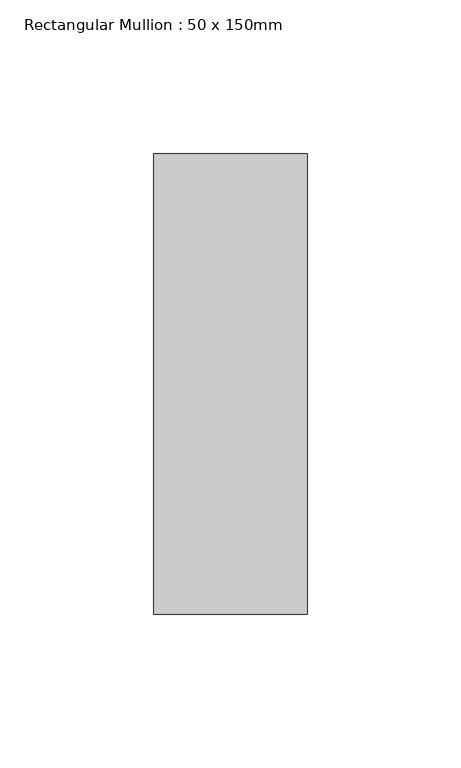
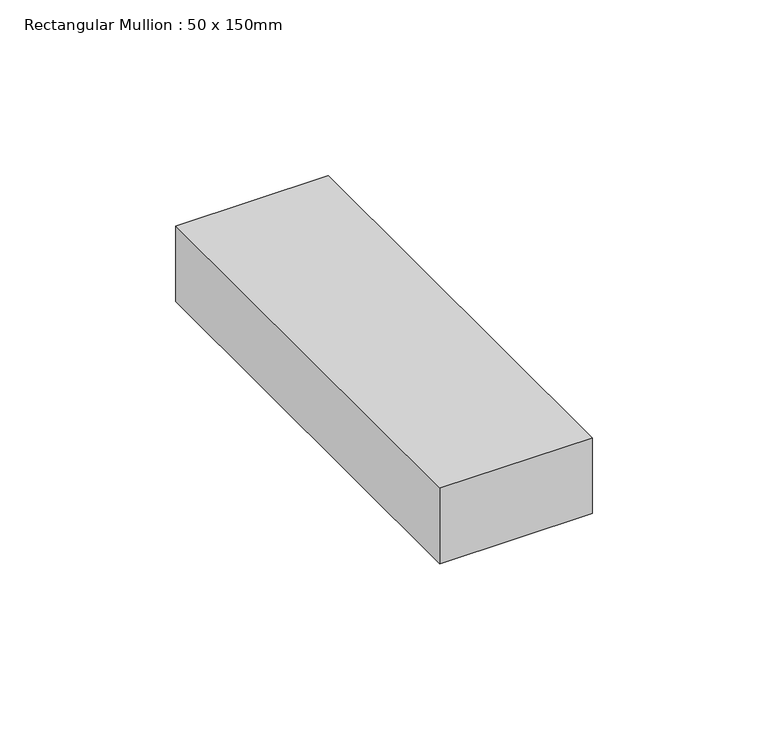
"""IFC4 building model written with IfcOpenShell, lengths in millimetres: member geometry, Rectangular Mullion : 50 x 150mm."""

from ifc_helpers import new_model, si_unit, frame, origin, place, context, project, spatial, polyline, outline, extrude, source, transform, mapped, element, save


def rectangular_mullion_50_x_150mm_18f4aede(model_context):
    return source(origin(), model_context, "Body", "SweptSolid", [
        extrude(outline(polyline([(25.0, 75.0), (25.0, -75.0), (-25.0, -75.0), (-25.0, 75.0), (25.0, 75.0)])), frame((0.0, 0.0, -26.25), z_axis=(0.0, 0.0, 1.0), x_axis=(1.0, 0.0, 0.0)), (0.0, 0.0, 1.0), 26.25),
    ])


if __name__ == "__main__":
    model = new_model("IFC4")
    model_context = context("Model", 3, world=origin())
    ifc_project = project(units=[si_unit("LENGTHUNIT", "METRE", prefix="MILLI")], contexts=[model_context])
    site = spatial("IfcSite", under=ifc_project)
    building = spatial("IfcBuilding", under=site)
    placement = place(None, origin())
    rectangular_mullion_50_x_150mm_shape = rectangular_mullion_50_x_150mm_18f4aede(model_context)
    element("IfcMember", 1, ObjectType="Rectangular Mullion : 50 x 150mm", at=placement, inside=building, context=model_context, shape_type="MappedRepresentation", body=[
        mapped(rectangular_mullion_50_x_150mm_shape, transform((0.0, 0.0, 0.0), x_axis=(1.0, 0.0, 0.0), y_axis=(0.0, 1.0, 0.0), z_axis=(0.0, 0.0, 1.0))),
    ])
    save(model, "model.ifc")
